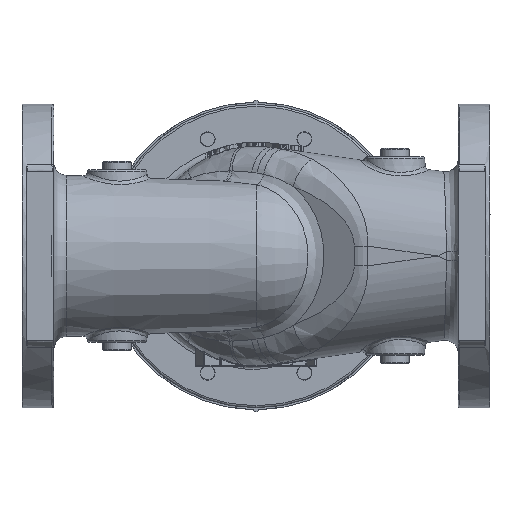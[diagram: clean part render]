
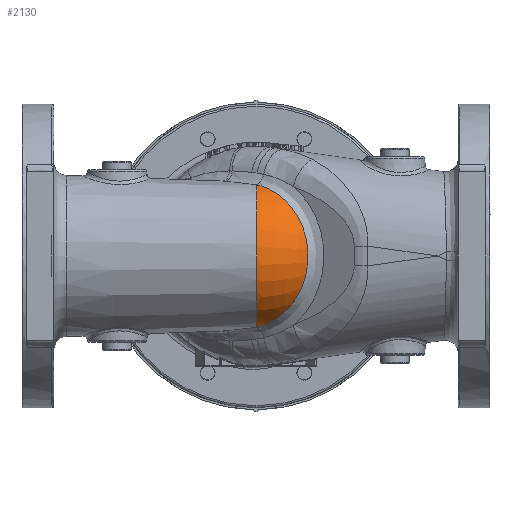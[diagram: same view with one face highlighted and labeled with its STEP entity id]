
A CAD part, front view. The second image highlights one B-rep face of the part: STEP entity #2130.
In plain terms, the highlighted toroidal (fillet/blend) face has major radius 3.459 mm and minor radius 58.928 mm.
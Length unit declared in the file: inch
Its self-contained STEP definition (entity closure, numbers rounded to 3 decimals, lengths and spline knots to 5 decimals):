
#1341 = CARTESIAN_POINT ( 'NONE',  ( 0.01631, -0.55231, -2.11118 ) ) ;
#2130 = ADVANCED_FACE ( 'NONE', ( #16047 ), #16180, .T. ) ;
#2657 = AXIS2_PLACEMENT_3D ( 'NONE', #23254, #37757, #27083 ) ;
#5855 = CARTESIAN_POINT ( 'NONE',  ( 0.01631, -0.55231, 2.11118 ) ) ;
#6512 = EDGE_CURVE ( 'NONE', #12487, #44543, #38126, .T. ) ;
#12487 = VERTEX_POINT ( 'NONE', #5855 ) ;
#16047 = FACE_OUTER_BOUND ( 'NONE', #43881, .T. ) ;
#16180 = TOROIDAL_SURFACE ( 'NONE', #2657, -0.13617, 2.32 ) ;
#21522 = ORIENTED_EDGE ( 'NONE', *, *, #29382, .T. ) ;
#23254 = CARTESIAN_POINT ( 'NONE',  ( -0.0697, 0., 0. ) ) ;
#23578 = AXIS2_PLACEMENT_3D ( 'NONE', #27609, #27555, #27503 ) ;
#23606 = ORIENTED_EDGE ( 'NONE', *, *, #6512, .T. ) ;
#27083 = DIRECTION ( 'NONE',  ( 0., 0., -1. ) ) ;
#27113 = CARTESIAN_POINT ( 'NONE',  ( 0.01631, -0.55231, 2.11118 ) ) ;
#27124 = CARTESIAN_POINT ( 'NONE',  ( 0.06894, -0.58618, 2.1003 ) ) ;
#27162 = CARTESIAN_POINT ( 'NONE',  ( 0.12122, -0.61983, 2.08673 ) ) ;
#27175 = CARTESIAN_POINT ( 'NONE',  ( 0.22398, -0.68595, 2.05457 ) ) ;
#27213 = CARTESIAN_POINT ( 'NONE',  ( 0.32514, -0.75103, 2.01736 ) ) ;
#27258 = CARTESIAN_POINT ( 'NONE',  ( 0.42317, -0.81406, 1.97021 ) ) ;
#27270 = CARTESIAN_POINT ( 'NONE',  ( 0.51961, -0.87604, 1.91805 ) ) ;
#27405 = CARTESIAN_POINT ( 'NONE',  ( 0.56709, -0.90655, 1.88943 ) ) ;
#27414 = CARTESIAN_POINT ( 'NONE',  ( 0.70675, -0.99624, 1.79603 ) ) ;
#27448 = CARTESIAN_POINT ( 'NONE',  ( 0.79408, -1.05227, 1.7252 ) ) ;
#27462 = CARTESIAN_POINT ( 'NONE',  ( 0.91671, -1.13085, 1.60656 ) ) ;
#27499 = CARTESIAN_POINT ( 'NONE',  ( 0.95618, -1.15613, 1.56494 ) ) ;
#27503 = DIRECTION ( 'NONE',  ( 0., 0., -1. ) ) ;
#27553 = CARTESIAN_POINT ( 'NONE',  ( 1.01324, -1.19264, 1.49932 ) ) ;
#27555 = DIRECTION ( 'NONE',  ( 1., 0., 0. ) ) ;
#27564 = CARTESIAN_POINT ( 'NONE',  ( 1.03191, -1.20458, 1.47692 ) ) ;
#27593 = CARTESIAN_POINT ( 'NONE',  ( 1.06851, -1.22798, 1.43104 ) ) ;
#27609 = CARTESIAN_POINT ( 'NONE',  ( 0.01631, 0., 0. ) ) ;
#27698 = CARTESIAN_POINT ( 'NONE',  ( 1.08648, -1.23947, 1.40752 ) ) ;
#27708 = CARTESIAN_POINT ( 'NONE',  ( 1.17409, -1.29543, 1.28767 ) ) ;
#27741 = CARTESIAN_POINT ( 'NONE',  ( 1.23618, -1.33502, 1.18595 ) ) ;
#27751 = CARTESIAN_POINT ( 'NONE',  ( 1.31766, -1.38684, 1.02483 ) ) ;
#27791 = CARTESIAN_POINT ( 'NONE',  ( 1.34285, -1.40285, 0.9697 ) ) ;
#27849 = CARTESIAN_POINT ( 'NONE',  ( 1.37765, -1.42494, 0.8848 ) ) ;
#27884 = CARTESIAN_POINT ( 'NONE',  ( 1.38874, -1.43197, 0.85613 ) ) ;
#27893 = CARTESIAN_POINT ( 'NONE',  ( 1.40991, -1.44539, 0.79805 ) ) ;
#27984 = CARTESIAN_POINT ( 'NONE',  ( 1.42, -1.45178, 0.76856 ) ) ;
#27993 = CARTESIAN_POINT ( 'NONE',  ( 1.46747, -1.48184, 0.62036 ) ) ;
#28030 = CARTESIAN_POINT ( 'NONE',  ( 1.49598, -1.49983, 0.49946 ) ) ;
#28039 = CARTESIAN_POINT ( 'NONE',  ( 1.52482, -1.51802, 0.31469 ) ) ;
#28074 = CARTESIAN_POINT ( 'NONE',  ( 1.5321, -1.5226, 0.25253 ) ) ;
#28124 = CARTESIAN_POINT ( 'NONE',  ( 1.53943, -1.52722, 0.1584 ) ) ;
#28134 = CARTESIAN_POINT ( 'NONE',  ( 1.54128, -1.52838, 0.12687 ) ) ;
#28176 = CARTESIAN_POINT ( 'NONE',  ( 1.54375, -1.52993, 0.06352 ) ) ;
#28220 = CARTESIAN_POINT ( 'NONE',  ( 1.54436, -1.53032, 0.03171 ) ) ;
#28269 = CARTESIAN_POINT ( 'NONE',  ( 1.54437, -1.53033, -0.12645 ) ) ;
#28327 = CARTESIAN_POINT ( 'NONE',  ( 1.53462, -1.5242, -0.25136 ) ) ;
#28413 = CARTESIAN_POINT ( 'NONE',  ( 1.50587, -1.50607, -0.4364 ) ) ;
#28468 = CARTESIAN_POINT ( 'NONE',  ( 1.49391, -1.49852, -0.49769 ) ) ;
#28516 = CARTESIAN_POINT ( 'NONE',  ( 1.47237, -1.48491, -0.58902 ) ) ;
#28575 = CARTESIAN_POINT ( 'NONE',  ( 1.46456, -1.47998, -0.61943 ) ) ;
#28626 = CARTESIAN_POINT ( 'NONE',  ( 1.44782, -1.4694, -0.67973 ) ) ;
#28666 = CARTESIAN_POINT ( 'NONE',  ( 1.43891, -1.46375, -0.70954 ) ) ;
#28761 = CARTESIAN_POINT ( 'NONE',  ( 1.39167, -1.43385, -0.857 ) ) ;
#28801 = CARTESIAN_POINT ( 'NONE',  ( 1.34542, -1.40451, -0.96981 ) ) ;
#28902 = CARTESIAN_POINT ( 'NONE',  ( 1.26375, -1.35255, -1.1315 ) ) ;
#28914 = CARTESIAN_POINT ( 'NONE',  ( 1.23446, -1.3339, -1.18414 ) ) ;
#28953 = CARTESIAN_POINT ( 'NONE',  ( 1.18737, -1.30388, -1.26117 ) ) ;
#29105 = CARTESIAN_POINT ( 'NONE',  ( 1.17116, -1.29354, -1.28649 ) ) ;
#29155 = CARTESIAN_POINT ( 'NONE',  ( 1.13801, -1.27238, -1.33601 ) ) ;
#29205 = CARTESIAN_POINT ( 'NONE',  ( 1.12103, -1.26154, -1.36027 ) ) ;
#29213 = CARTESIAN_POINT ( 'NONE',  ( 1.03413, -1.20603, -1.47908 ) ) ;
#29289 = CARTESIAN_POINT ( 'NONE',  ( 0.95829, -1.1575, -1.56629 ) ) ;
#29347 = CARTESIAN_POINT ( 'NONE',  ( 0.83515, -1.07859, -1.68549 ) ) ;
#29382 = EDGE_CURVE ( 'NONE', #44543, #12487, #43664, .T. ) ;
#29385 = CARTESIAN_POINT ( 'NONE',  ( 0.79248, -1.05123, -1.72332 ) ) ;
#29432 = CARTESIAN_POINT ( 'NONE',  ( 0.70414, -0.99455, -1.79478 ) ) ;
#29489 = CARTESIAN_POINT ( 'NONE',  ( 0.65899, -0.96557, -1.828 ) ) ;
#29500 = CARTESIAN_POINT ( 'NONE',  ( 0.42478, -0.8151, -1.97229 ) ) ;
#29539 = CARTESIAN_POINT ( 'NONE',  ( 0.30017, -0.73496, -2.02514 ) ) ;
#29552 = CARTESIAN_POINT ( 'NONE',  ( 0.27501, -0.71877, -2.0351 ) ) ;
#29660 = CARTESIAN_POINT ( 'NONE',  ( 0.22421, -0.68609, -2.05379 ) ) ;
#29698 = CARTESIAN_POINT ( 'NONE',  ( 0.19853, -0.66957, -2.06253 ) ) ;
#29712 = CARTESIAN_POINT ( 'NONE',  ( 0.12107, -0.61973, -2.08678 ) ) ;
#29860 = CARTESIAN_POINT ( 'NONE',  ( 0.01631, -0.55231, -2.11118 ) ) ;
#29895 = CARTESIAN_POINT ( 'NONE',  ( 0.06894, -0.58618, -2.1003 ) ) ;
#33235 = CARTESIAN_POINT ( 'NONE',  ( 0.52072, -0.87677, -1.92037 ) ) ;
#37757 = DIRECTION ( 'NONE',  ( 1., 0., 0. ) ) ;
#38126 = CIRCLE ( 'NONE', #23578, 2.18223 ) ;
#43664 = B_SPLINE_CURVE_WITH_KNOTS ( 'NONE', 3,
 ( #29860, #29895, #29712, #29698, #29660, #29552, #29539, #29500, #33235, #29489, #29432, #29385, #29347, #29289, #29213, #29205, #29155, #29105, #28953, #28914, #28902, #28801, #28761, #28666, #28626, #28575, #28516, #28468, #28413, #28327, #28269, #28220, #28176, #28134, #28124, #28074, #28039, #28030, #27993, #27984, #27893, #27884, #27849, #27791, #27751, #27741, #27708, #27698, #27593, #27564, #27553, #27499, #27462, #27448, #27414, #27405, #27270, #27258, #27213, #27175, #27162, #27124, #27113 ),
 .UNSPECIFIED., .F., .F.,
 ( 4, 2, 2, 2, 2, 2, 2, 2, 2, 2, 2, 2, 2, 2, 2, 2, 2, 2, 2, 2, 2, 2, 2, 2, 2, 2, 2, 2, 2, 1, 2, 4 ),
 ( 0., 0.00484, 0.00725, 0.00967, 0.01934, 0.02418, 0.02901, 0.03868, 0.0411, 0.04352, 0.04835, 0.05802, 0.06044, 0.06286, 0.06769, 0.07736, 0.07978, 0.0822, 0.08703, 0.0967, 0.09912, 0.10154, 0.10637, 0.11604, 0.11846, 0.12088, 0.12571, 0.13538, 0.14022, 0.14505, 0.14989, 0.15472 ),
 .UNSPECIFIED. ) ;
#43881 = EDGE_LOOP ( 'NONE', ( #23606, #21522 ) ) ;
#44543 = VERTEX_POINT ( 'NONE', #1341 ) ;
